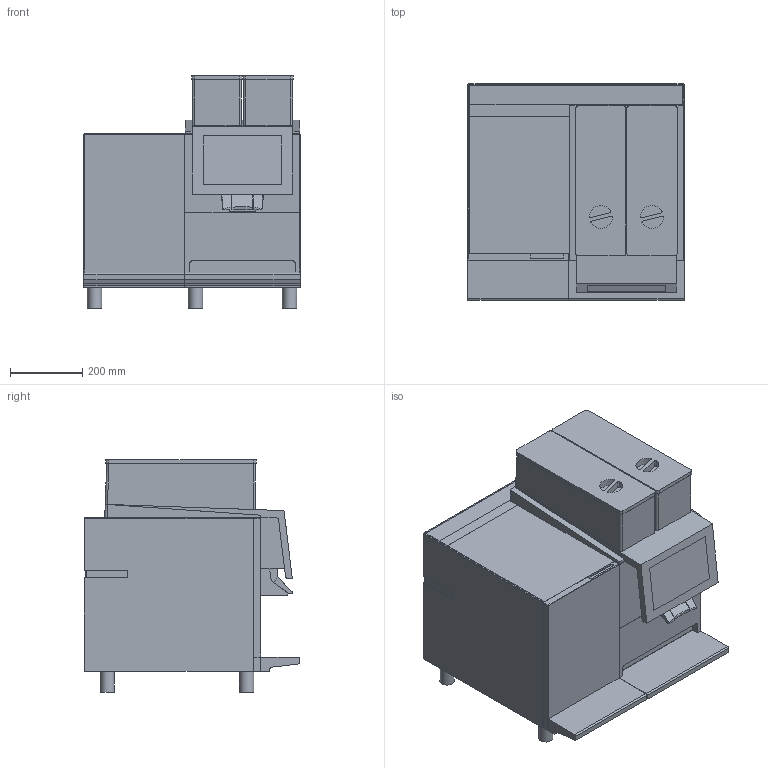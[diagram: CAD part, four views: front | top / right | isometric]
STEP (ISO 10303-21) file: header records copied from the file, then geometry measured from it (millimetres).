
FILE_DESCRIPTION(/* description */ ('Unknown'),/* implementation_level */ '2;1');
FILE_NAME(/* name */ 'HM_BW4-CTM-RL',/* time_stamp */ '2026-08-14T11:16:26+02:00',/* author */ ('Unknown'),/* organization */ ('Unknown'),/* preprocessor_version */ 'ST-DEVELOPER v20',/* originating_system */ 'Solid Edge',/* authorisation */ 'Unknown');
FILE_SCHEMA (('AUTOMOTIVE_DESIGN {1 0 10303 214 3 1 1}'));
Length unit declared in the file: millimetre
Products named in the file (1): HM_BW4-CTM-RL
Bounding box: 601.3 x 599.39 x 645.65 mm (x, y, z)
Volume: 148743238.8 mm3; surface area: 2285820.4 mm2
Topology: 1 solids, 1 shells, 292 faces, 803 edges, 516 vertices
Faces by surface type: plane 214, cylinder 74, sphere 4
Full cylindrical faces by diameter (mm): 40 x6
Entity records: 11208 total; most frequent: CARTESIAN_POINT 1596, ORIENTED_EDGE 1580, DIRECTION 1541, EDGE_CURVE 790, LINE 625, VECTOR 625, VERTEX_POINT 513, AXIS2_PLACEMENT_3D 458
